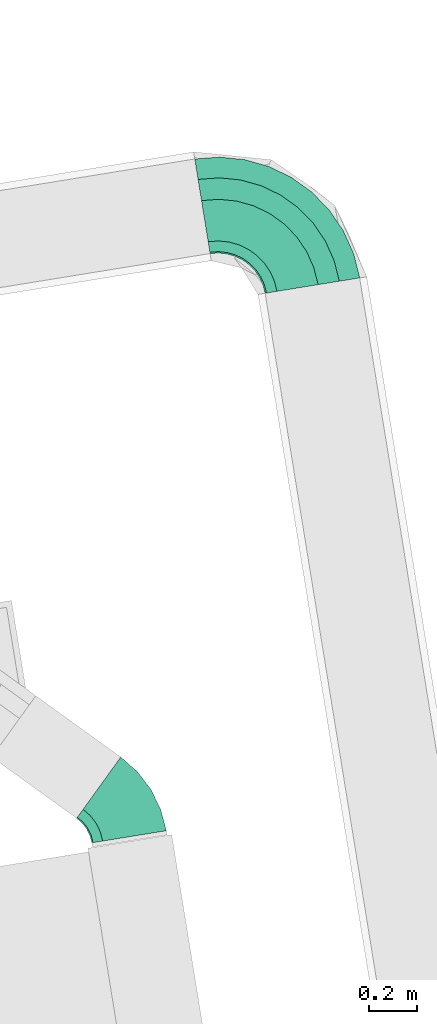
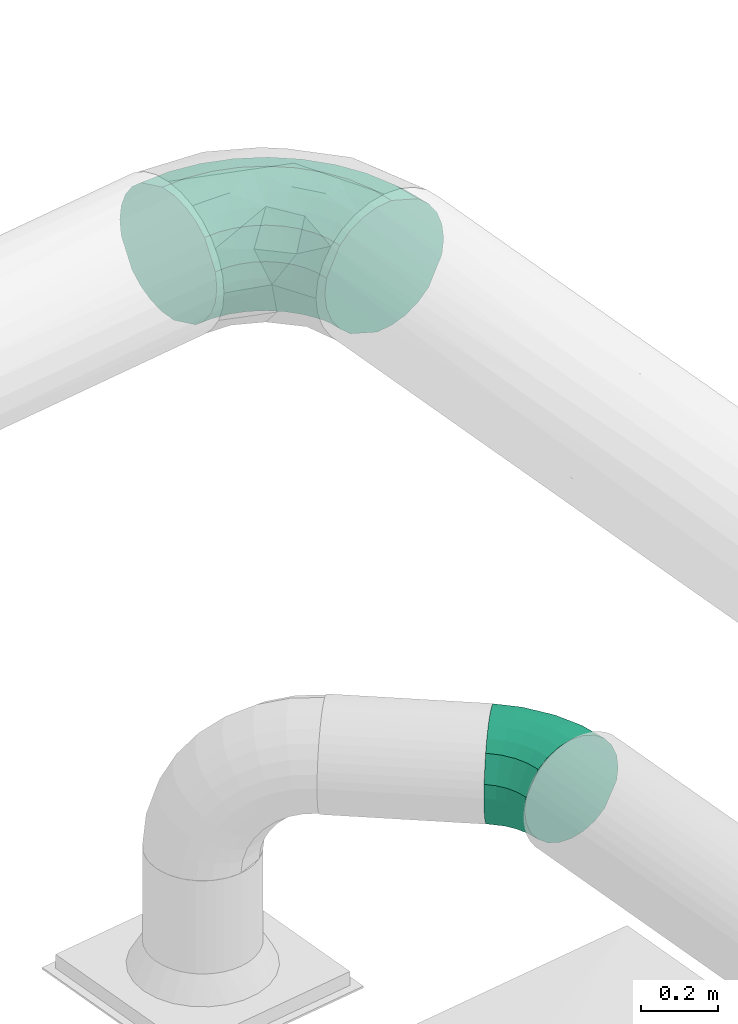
# One storey, part 37 of 39: 2 flow fittings.
"""IFC2X3 building model written with IfcOpenShell, lengths in millimetres."""

from ifc_helpers import new_model, entity, si_unit, converted_unit, derived_unit, direction, frame, origin, origin_with_axes, place, context, subcontext, project, spatial, faceted_brep, source, transform, mapped, material, type_object, element, save


model = new_model("IFC2X3")

# Units and contexts
plan_context = context("Plan", 3, precision=1e-05, world=origin_with_axes())
model_context = context("Model", 3, precision=0.01, world=origin(), true_north=direction((6.12323399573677e-17, 1.0)))
body_context = subcontext(model_context, "Body", "Model", "MODEL_VIEW")
ifc_project = project(units=[converted_unit("PLANEANGLEUNIT", "DEGREE", entity("IfcPositiveLengthMeasure", 0.0174532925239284), si_unit("PLANEANGLEUNIT", "RADIAN"), dimensions=[0, 0, 0, 0, 0, 0, 0]), si_unit("AREAUNIT", "SQUARE_METRE"), si_unit("LENGTHUNIT", "METRE", prefix="MILLI"), si_unit("MASSUNIT", "GRAM", prefix="KILO"), si_unit("POWERUNIT", "WATT"), si_unit("PRESSUREUNIT", "PASCAL", prefix="KILO"), si_unit("FORCEUNIT", "NEWTON", prefix="KILO"), si_unit("ELECTRICVOLTAGEUNIT", "VOLT"), si_unit("ELECTRICCURRENTUNIT", "AMPERE"), si_unit("THERMODYNAMICTEMPERATUREUNIT", "DEGREE_CELSIUS"), si_unit("TIMEUNIT", "SECOND"), si_unit("VOLUMEUNIT", "CUBIC_METRE"), derived_unit("LINEARVELOCITYUNIT", [(si_unit("LENGTHUNIT", "METRE"), 1), (si_unit("TIMEUNIT", "SECOND"), -1)]), derived_unit("VOLUMETRICFLOWRATEUNIT", [(si_unit("VOLUMEUNIT", "CUBIC_METRE"), 1), (si_unit("TIMEUNIT", "SECOND"), -1)]), derived_unit("THERMALTRANSMITTANCEUNIT", [(si_unit("POWERUNIT", "WATT"), 1), (si_unit("THERMODYNAMICTEMPERATUREUNIT", "KELVIN"), -1), (si_unit("AREAUNIT", "SQUARE_METRE"), -1)]), derived_unit("SOUNDPRESSUREUNIT", [(si_unit("PRESSUREUNIT", "PASCAL"), 1)])], contexts=[model_context, plan_context])

# Site, building, storey
site_placement = place(None, frame((-0.00071070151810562, 0.00438415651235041, 0.0), z_axis=(0.0, 0.0, 1.0), x_axis=(-0.160236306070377, 0.987078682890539, 0.0)))
site = spatial("IfcSite", under=ifc_project, at=site_placement, Name="Default", CompositionType="ELEMENT")
building_placement = place(site_placement, origin_with_axes())
building = spatial("IfcBuilding", under=site, at=building_placement, CompositionType="ELEMENT")
storey_placement = place(building_placement, frame((0.0, 0.0, 58999.9999999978), z_axis=(0.0, 0.0, 1.0), x_axis=(1.0, 0.0, 0.0)))
storey = spatial("IfcBuildingStorey", under=building, at=storey_placement, Name="Nivå F", CompositionType="ELEMENT", Elevation=58999.9999999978)

# Flow fittings
ifc_material = material(Name="<Unnamed>")
duct_fitting_type_1 = type_object("IfcDuctFittingType", Name="magicirc_elbow_full_radius_1:magicirc_elbow_full_radius_001", PredefinedType="NOTDEFINED", material=ifc_material)
shared_shape_1 = source(origin(), body_context, "Body", "Brep", [
    faceted_brep([(-38.2970949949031, -148.421044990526, 0.0), (-39.3440827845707, -143.157481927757, 40.7639996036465), (-130.477272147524, -152.133317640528, 40.7639996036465), (-130.477272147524, -157.5, 0.0), (-42.4136956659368, -127.725495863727, 78.7499999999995), (-130.477272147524, -136.399001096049, 78.7499999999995), (-47.2967445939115, -103.176751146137, 111.369318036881), (-130.477272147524, -111.369318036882, 111.369318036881), (-53.6604578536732, -71.1842041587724, 136.399001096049), (-130.477272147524, -78.7500000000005, 136.399001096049), (-61.0711589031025, -33.9280941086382, 152.133317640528), (-130.477272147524, -40.7639996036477, 152.133317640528), (-69.0238207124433, 6.0526366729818, 157.5), (-130.477272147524, 0.0, 157.5), (-76.9764825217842, 46.033367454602, 152.133317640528), (-130.477272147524, 40.7639996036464, 152.133317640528), (-84.3871835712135, 83.2894775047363, 136.399001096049), (-130.477272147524, 78.7499999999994, 136.399001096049), (-90.7508968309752, 115.282024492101, 111.369318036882), (-130.477272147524, 111.369318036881, 111.369318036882), (-98.7035586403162, 155.262755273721, 40.7639996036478), (-130.477272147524, 152.133317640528, 40.7639996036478), (-99.7505464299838, 160.526318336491, 0.0), (-130.477272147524, 157.5, 0.0), (-98.7035586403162, 155.262755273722, -40.763999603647), (-130.477272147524, 152.133317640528, -40.763999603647), (-95.6339457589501, 139.830769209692, -78.7499999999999), (-130.477272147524, 136.399001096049, -78.7499999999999), (-90.7508968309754, 115.282024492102, -111.369318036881), (-130.477272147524, 111.369318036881, -111.369318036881), (-84.3871835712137, 83.289477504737, -136.399001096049), (-130.477272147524, 78.7500000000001, -136.399001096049), (-76.9764825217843, 46.0333674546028, -152.133317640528), (-130.477272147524, 40.7639996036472, -152.133317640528), (-69.0238207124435, 6.05263667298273, -157.5), (-130.477272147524, 0.0, -157.5), (-61.0711589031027, -33.9280941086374, -152.133317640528), (-130.477272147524, -40.7639996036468, -152.133317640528), (-53.6604578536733, -71.1842041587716, -136.399001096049), (-130.477272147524, -78.7499999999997, -136.399001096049), (-47.2967445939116, -103.176751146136, -111.369318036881), (-130.477272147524, -111.369318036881, -111.369318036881), (-39.3440827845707, -143.157481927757, -40.7639996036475), (-130.477272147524, -152.133317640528, -40.7639996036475), (50.3406496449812, -121.533079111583, 0.0), (48.2869092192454, -116.574911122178, 40.7639996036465), (42.2656469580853, -102.03829810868, 78.7499999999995), (32.6872019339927, -78.9138862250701, 111.369318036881), (20.2043293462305, -48.7775659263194, 136.399001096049), (5.66771633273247, -13.6830776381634, 152.133317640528), (-9.93199095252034, 23.9779472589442, 157.5), (-25.5316982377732, 61.638972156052, 152.133317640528), (-40.0683112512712, 96.7334604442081, 136.399001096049), (-52.5511838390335, 126.869780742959, 111.369318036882), (-68.1508911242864, 164.530805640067, 40.7639996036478), (-70.2046315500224, 169.488973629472, 0.0), (-68.1508911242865, 164.530805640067, -40.763999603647), (-62.1296288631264, 149.994192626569, -78.7499999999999), (-52.5511838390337, 126.86978074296, -111.369318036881), (-40.0683112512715, 96.7334604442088, -136.399001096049), (-25.5316982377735, 61.6389721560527, -152.133317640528), (-9.9319909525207, 23.9779472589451, -157.5), (5.66771633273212, -13.6830776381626, -152.133317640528), (20.2043293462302, -48.7775659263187, -136.399001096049), (32.6872019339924, -78.9138862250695, -111.369318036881), (48.2869092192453, -116.574911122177, -40.7639996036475), (132.029662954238, -77.8693918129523, 0.0), (129.048093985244, -73.4071585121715, 40.7639996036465), (120.306576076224, -60.324552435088, 78.7499999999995), (106.400829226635, -39.5131315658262, 111.369318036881), (88.2785071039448, -12.3911598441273, 136.399001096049), (67.1746160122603, 19.1930451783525, 152.133317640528), (44.5273512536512, 53.0870721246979, 157.5), (21.880086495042, 86.9810990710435, 152.133317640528), (0.776195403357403, 118.565304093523, 136.399001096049), (-17.3461267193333, 145.687275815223, 111.369318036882), (-39.9933914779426, 179.581302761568, 40.7639996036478), (-42.9749604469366, 184.043536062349, 0.0), (-39.9933914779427, 179.581302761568, -40.763999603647), (-31.2518735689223, 166.498696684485, -78.7499999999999), (-17.3461267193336, 145.687275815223, -111.369318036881), (0.776195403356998, 118.565304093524, -136.399001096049), (21.8800864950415, 86.9810990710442, -152.133317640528), (44.5273512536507, 53.0870721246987, -157.5), (67.1746160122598, 19.1930451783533, -152.133317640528), (88.2785071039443, -12.3911598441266, -136.399001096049), (106.400829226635, -39.5131315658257, -111.369318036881), (129.048093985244, -73.4071585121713, -40.7639996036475), (203.63068196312, -19.1079541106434, 0.0), (199.835864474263, -15.3131366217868, 40.7639996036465), (188.710022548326, -4.18729469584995, 78.7499999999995), (171.011363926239, 13.5113639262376, 111.369318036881), (147.94602294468, 36.5767049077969, 136.399001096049), (121.085864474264, 63.4368633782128, 152.133317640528), (92.261363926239, 92.2613639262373, 157.5), (63.4368633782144, 121.085864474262, 152.133317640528), (36.5767049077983, 147.946022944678, 136.399001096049), (13.5113639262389, 171.011363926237, 111.369318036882), (-15.3131366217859, 199.835864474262, 40.7639996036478), (-19.1079541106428, 203.630681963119, 0.0), (-15.3131366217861, 199.835864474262, -40.763999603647), (-4.18729469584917, 188.710022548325, -78.7499999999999), (13.5113639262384, 171.011363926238, -111.369318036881), (36.5767049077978, 147.946022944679, -136.399001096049), (63.4368633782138, 121.085864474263, -152.133317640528), (92.2613639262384, 92.261363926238, -157.5), (121.085864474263, 63.4368633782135, -152.133317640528), (147.946022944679, 36.5767049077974, -136.399001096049), (171.011363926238, 13.5113639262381, -111.369318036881), (199.835864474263, -15.3131366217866, -40.7639996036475)], [[[0, 1, 2, 3]], [[1, 4, 5, 2]], [[4, 6, 7, 5]], [[6, 8, 9, 7]], [[8, 10, 11, 9]], [[10, 12, 13, 11]], [[12, 14, 15, 13]], [[14, 16, 17, 15]], [[16, 18, 19, 17]], [[18, 20, 21, 19]], [[20, 22, 23, 21]], [[22, 24, 25, 23]], [[24, 26, 27, 25]], [[26, 28, 29, 27]], [[28, 30, 31, 29]], [[30, 32, 33, 31]], [[32, 34, 35, 33]], [[34, 36, 37, 35]], [[36, 38, 39, 37]], [[38, 40, 41, 39]], [[40, 42, 43, 41]], [[42, 0, 3, 43]], [[44, 45, 1, 0]], [[45, 46, 4, 1]], [[46, 47, 6, 4]], [[47, 48, 8, 6]], [[48, 49, 10, 8]], [[49, 50, 12, 10]], [[50, 51, 14, 12]], [[51, 52, 16, 14]], [[52, 53, 18, 16]], [[53, 54, 20, 18]], [[54, 55, 22, 20]], [[55, 56, 24, 22]], [[56, 57, 26, 24]], [[57, 58, 28, 26]], [[58, 59, 30, 28]], [[59, 60, 32, 30]], [[60, 61, 34, 32]], [[61, 62, 36, 34]], [[62, 63, 38, 36]], [[63, 64, 40, 38]], [[64, 65, 42, 40]], [[65, 44, 0, 42]], [[66, 67, 45, 44]], [[67, 68, 46, 45]], [[68, 69, 47, 46]], [[69, 70, 48, 47]], [[70, 71, 49, 48]], [[71, 72, 50, 49]], [[72, 73, 51, 50]], [[73, 74, 52, 51]], [[74, 75, 53, 52]], [[75, 76, 54, 53]], [[76, 77, 55, 54]], [[77, 78, 56, 55]], [[78, 79, 57, 56]], [[79, 80, 58, 57]], [[80, 81, 59, 58]], [[81, 82, 60, 59]], [[82, 83, 61, 60]], [[83, 84, 62, 61]], [[84, 85, 63, 62]], [[85, 86, 64, 63]], [[86, 87, 65, 64]], [[87, 66, 44, 65]], [[88, 89, 67, 66]], [[89, 90, 68, 67]], [[90, 91, 69, 68]], [[91, 92, 70, 69]], [[92, 93, 71, 70]], [[93, 94, 72, 71]], [[94, 95, 73, 72]], [[95, 96, 74, 73]], [[96, 97, 75, 74]], [[97, 98, 76, 75]], [[98, 99, 77, 76]], [[99, 100, 78, 77]], [[100, 101, 79, 78]], [[101, 102, 80, 79]], [[102, 103, 81, 80]], [[103, 104, 82, 81]], [[104, 105, 83, 82]], [[105, 106, 84, 83]], [[106, 107, 85, 84]], [[107, 108, 86, 85]], [[108, 109, 87, 86]], [[109, 88, 66, 87]], [[3, 2, 5, 7, 9, 11, 13, 15, 17, 19, 21, 23, 25, 27, 29, 31, 33, 35, 37, 39, 41, 43]], [[109, 108, 107, 106, 105, 104, 103, 102, 101, 100, 99, 98, 97, 96, 95, 94, 93, 92, 91, 90, 89, 88]]]),
])
flow_fitting_1_placement = place(storey_placement, frame((780910.265437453, -502178.834705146, 3130.03415297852), z_axis=(0.0, 0.0, 1.0), x_axis=(1.0, 0.0, 0.0)))
element("IfcFlowFitting", 1, at=flow_fitting_1_placement, inside=storey, type_object=duct_fitting_type_1, material=ifc_material, Name="magicirc_elbow_full_radius_1:magicirc_elbow_full_radius_001", ObjectType="magicirc_elbow_full_radius_1:magicirc_elbow_full_radius_001", context=body_context, shape_type="MappedRepresentation", body=[
    mapped(shared_shape_1, transform((0.0, 0.0, 0.0), scale=1.0)),
])
duct_fitting_type_2 = type_object("IfcDuctFittingType", Name="magicirc_elbow_full_radius_1:magicirc_elbow_full_radius_001", PredefinedType="NOTDEFINED", material=ifc_material)
shared_shape_2 = source(origin(), body_context, "Body", "Brep", [
    faceted_brep([(-295.81109339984, -190.884651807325, 0.0), (-296.820273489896, -185.161307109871, 47.8631328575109), (-400.0, -194.188363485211, 47.8631328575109), (-400.0, -200.0, 0.0), (-299.78916388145, -168.323893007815, 92.9446344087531), (-400.0, -177.091205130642, 92.9446344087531), (-304.545223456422, -141.350938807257, 132.624531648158), (-400.0, -149.702149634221, 132.624531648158), (-310.812047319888, -105.810014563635, 164.596773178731), (-400.0, -113.612949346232, 164.596773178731), (-326.354533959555, -17.6641926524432, 198.541774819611), (-400.0, -24.1073360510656, 198.541774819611), (-334.726923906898, 29.817990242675, 198.541774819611), (-400.0, 24.1073360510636, 198.541774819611), (-342.856027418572, 75.9204271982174, 187.003248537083), (-400.0, 70.9209774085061, 187.003248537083), (-350.269410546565, 117.963812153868, 164.596773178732), (-400.0, 113.61294934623, 164.596773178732), (-356.536234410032, 153.50473639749, 132.62453164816), (-400.0, 149.702149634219, 132.62453164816), (-364.261184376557, 197.315104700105, 47.8631328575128), (-400.0, 194.18836348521, 47.8631328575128), (-365.270364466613, 203.038449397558, 0.0), (-400.0, 200.0, 0.0), (-364.261184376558, 197.315104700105, -47.8631328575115), (-400.0, 194.18836348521, -47.8631328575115), (-361.292293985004, 180.477690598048, -92.9446344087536), (-400.0, 177.091205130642, -92.9446344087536), (-356.536234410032, 153.504736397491, -132.624531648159), (-400.0, 149.70214963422, -132.624531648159), (-350.269410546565, 117.963812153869, -164.596773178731), (-400.0, 113.612949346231, -164.596773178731), (-334.726923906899, 29.8179902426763, -198.541774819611), (-400.0, 24.1073360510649, -198.541774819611), (-326.354533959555, -17.6641926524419, -198.541774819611), (-400.0, -24.1073360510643, -198.541774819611), (-318.225430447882, -63.7666296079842, -187.003248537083), (-400.0, -70.9209774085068, -187.003248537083), (-310.812047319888, -105.810014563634, -164.596773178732), (-400.0, -113.612949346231, -164.596773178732), (-304.545223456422, -141.350938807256, -132.624531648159), (-400.0, -149.70214963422, -132.624531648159), (-296.820273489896, -185.161307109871, -47.8631328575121), (-400.0, -194.18836348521, -47.8631328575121), (-194.787914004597, -163.815572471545, 0.0), (-196.775610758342, -158.354420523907, 47.8631328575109), (-202.623183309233, -142.288346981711, 92.9446344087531), (-211.990791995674, -116.551053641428, 132.624531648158), (-224.334025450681, -82.6382984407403, 164.596773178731), (-254.946748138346, 1.46946589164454, 198.541774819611), (-271.437137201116, 46.7764374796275, 198.541774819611), (-287.448345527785, 90.7668708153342, 187.003248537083), (-302.049859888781, 130.884201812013, 164.596773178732), (-314.393093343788, 164.796957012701, 132.62453164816), (-329.608274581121, 206.60032389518, 47.8631328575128), (-331.595971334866, 212.061475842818, 0.0), (-329.608274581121, 206.600323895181, -47.8631328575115), (-323.760702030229, 190.534250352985, -92.9446344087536), (-314.393093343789, 164.796957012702, -132.624531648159), (-302.049859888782, 130.884201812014, -164.596773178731), (-271.437137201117, 46.7764374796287, -198.541774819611), (-254.946748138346, 1.46946589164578, -198.541774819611), (-238.935539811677, -42.5209674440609, -187.003248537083), (-224.334025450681, -82.6382984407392, -164.596773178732), (-211.990791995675, -116.551053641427, -132.624531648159), (-196.775610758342, -158.354420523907, -47.8631328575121), (-100.0, -119.615242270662, 0.0), (-102.905818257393, -114.582217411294, 47.8631328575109), (-111.454397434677, -99.7756439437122, 92.9446344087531), (-125.148925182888, -76.0560260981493, 132.624531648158), (-143.193525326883, -44.8018618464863, 164.596773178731), (-187.946331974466, 32.7122730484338, 198.541774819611), (-212.053668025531, 74.4674039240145, 198.541774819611), (-235.460488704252, 115.009206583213, 187.003248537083), (-256.806474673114, 151.981538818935, 164.596773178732), (-274.851074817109, 183.235703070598, 132.62453164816), (-297.094181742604, 221.761894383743, 47.8631328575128), (-300.0, 226.794919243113, 0.0), (-297.094181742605, 221.761894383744, -47.8631328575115), (-288.54560256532, 206.955320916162, -92.9446344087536), (-274.851074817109, 183.235703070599, -132.624531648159), (-256.806474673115, 151.981538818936, -164.596773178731), (-212.053668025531, 74.4674039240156, -198.541774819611), (-187.946331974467, 32.712273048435, -198.541774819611), (-164.539511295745, -7.829529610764, -187.003248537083), (-143.193525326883, -44.8018618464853, -164.596773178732), (-125.148925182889, -76.0560260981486, -132.624531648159), (-102.905818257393, -114.582217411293, -47.8631328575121), (-14.327434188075, -59.6266658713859, 0.0), (-18.0630821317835, -55.1746940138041, 47.8631328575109), (-29.0529236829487, -42.0775108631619, 92.9446344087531), (-46.6582691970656, -21.0962770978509, 132.624531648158), (-69.8559599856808, 6.54965423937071, 164.596773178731), (-127.389059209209, 75.1149319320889, 198.541774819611), (-158.380853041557, 112.049513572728, 198.541774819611), (-188.47208167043, 147.910843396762, 187.003248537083), (-215.913952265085, 180.614791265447, 164.596773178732), (-239.1116430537, 208.260722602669, 132.62453164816), (-267.706830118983, 242.339139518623, 47.8631328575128), (-271.442478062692, 246.791111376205, 0.0), (-267.706830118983, 242.339139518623, -47.8631328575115), (-256.716988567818, 229.24195636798, -92.9446344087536), (-239.111643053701, 208.260722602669, -132.624531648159), (-215.913952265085, 180.614791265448, -164.596773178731), (-158.380853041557, 112.049513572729, -198.541774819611), (-127.389059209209, 75.1149319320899, -198.541774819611), (-97.297830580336, 39.2536021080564, -187.003248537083), (-69.8559599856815, 6.54965423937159, -164.596773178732), (-46.6582691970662, -21.0962770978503, -132.624531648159), (-18.0630821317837, -55.1746940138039, -47.8631328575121), (59.626665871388, 14.3274341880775, 0.0), (55.1746940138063, 18.0630821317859, 47.8631328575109), (42.077510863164, 29.0529236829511, 92.9446344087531), (21.0962770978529, 46.6582691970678, 132.624531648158), (-6.54965423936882, 69.8559599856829, 164.596773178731), (-75.1149319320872, 127.38905920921, 198.541774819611), (-112.049513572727, 158.380853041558, 198.541774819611), (-147.910843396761, 188.472081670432, 187.003248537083), (-180.614791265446, 215.913952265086, 164.596773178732), (-208.260722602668, 239.111643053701, 132.62453164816), (-242.339139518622, 267.706830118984, 47.8631328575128), (-246.791111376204, 271.442478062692, 0.0), (-242.339139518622, 267.706830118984, -47.8631328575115), (-229.24195636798, 256.716988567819, -92.9446344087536), (-208.260722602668, 239.111643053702, -132.624531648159), (-180.614791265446, 215.913952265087, -164.596773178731), (-112.049513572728, 158.380853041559, -198.541774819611), (-75.1149319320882, 127.389059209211, -198.541774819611), (-39.2536021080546, 97.297830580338, -187.003248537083), (-6.54965423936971, 69.8559599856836, -164.596773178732), (21.0962770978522, 46.6582691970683, -132.624531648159), (55.174694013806, 18.0630821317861, -47.8631328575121), (119.615242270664, 100.0, 0.0), (114.582217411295, 102.905818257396, 47.8631328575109), (99.775643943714, 111.45439743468, 92.9446344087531), (76.056026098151, 125.148925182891, 132.624531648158), (44.8018618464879, 143.193525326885, 164.596773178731), (-32.7122730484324, 187.946331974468, 198.541774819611), (-74.4674039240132, 212.053668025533, 198.541774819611), (-115.009206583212, 235.460488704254, 187.003248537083), (-151.981538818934, 256.806474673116, 164.596773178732), (-183.235703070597, 274.85107481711, 132.62453164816), (-221.761894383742, 297.094181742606, 47.8631328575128), (-226.794919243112, 300.0, 0.0), (-221.761894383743, 297.094181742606, -47.8631328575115), (-206.955320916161, 288.545602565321, -92.9446344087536), (-183.235703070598, 274.851074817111, -132.624531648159), (-151.981538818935, 256.806474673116, -164.596773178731), (-74.4674039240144, 212.053668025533, -198.541774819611), (-32.7122730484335, 187.946331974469, -198.541774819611), (7.82952961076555, 164.539511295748, -187.003248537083), (44.8018618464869, 143.193525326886, -164.596773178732), (76.0560260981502, 125.148925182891, -132.624531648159), (114.582217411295, 102.905818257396, -47.8631328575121), (163.815572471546, 194.7879140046, 0.0), (158.354420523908, 196.775610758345, 47.8631328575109), (142.288346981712, 202.623183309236, 92.9446344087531), (116.551053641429, 211.990791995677, 132.624531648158), (82.6382984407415, 224.334025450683, 164.596773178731), (-1.46946589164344, 254.946748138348, 198.541774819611), (-46.7764374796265, 271.437137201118, 198.541774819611), (-90.7668708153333, 287.448345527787, 187.003248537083), (-130.884201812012, 302.049859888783, 164.596773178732), (-164.7969570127, 314.39309334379, 132.62453164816), (-206.60032389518, 329.608274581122, 47.8631328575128), (-212.061475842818, 331.595971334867, 0.0), (-206.60032389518, 329.608274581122, -47.8631328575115), (-190.534250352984, 323.760702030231, -92.9446344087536), (-164.796957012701, 314.39309334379, -132.624531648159), (-130.884201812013, 302.049859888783, -164.596773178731), (-46.7764374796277, 271.437137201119, -198.541774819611), (-1.46946589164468, 254.946748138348, -198.541774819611), (42.5209674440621, 238.93553981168, -187.003248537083), (82.6382984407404, 224.334025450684, -164.596773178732), (116.551053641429, 211.990791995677, -132.624531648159), (158.354420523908, 196.775610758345, -47.8631328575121), (190.884651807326, 295.811093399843, 0.0), (185.161307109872, 296.820273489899, 47.8631328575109), (168.323893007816, 299.789163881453, 92.9446344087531), (141.350938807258, 304.545223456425, 132.624531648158), (105.810014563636, 310.812047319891, 164.596773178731), (17.664192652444, 326.354533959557, 198.541774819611), (-29.8179902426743, 334.7269239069, 198.541774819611), (-75.9204271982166, 342.856027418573, 187.003248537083), (-117.963812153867, 350.269410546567, 164.596773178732), (-153.504736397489, 356.536234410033, 132.62453164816), (-197.315104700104, 364.261184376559, 47.8631328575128), (-203.038449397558, 365.270364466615, 0.0), (-197.315104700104, 364.261184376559, -47.8631328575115), (-180.477690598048, 361.292293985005, -92.9446344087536), (-153.50473639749, 356.536234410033, -132.624531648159), (-117.963812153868, 350.269410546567, -164.596773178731), (-29.8179902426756, 334.726923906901, -198.541774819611), (17.6641926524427, 326.354533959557, -198.541774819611), (63.766629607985, 318.225430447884, -187.003248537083), (105.810014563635, 310.812047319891, -164.596773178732), (141.350938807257, 304.545223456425, -132.624531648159), (185.161307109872, 296.820273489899, -47.8631328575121), (200.0, 400.0, 0.0), (194.188363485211, 400.0, 47.8631328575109), (177.091205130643, 400.0, 92.9446344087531), (149.702149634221, 400.0, 132.624531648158), (113.612949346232, 400.0, 164.596773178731), (24.1073360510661, 400.0, 198.541774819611), (-24.107336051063, 400.0, 198.541774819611), (-70.9209774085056, 400.0, 187.003248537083), (-113.61294934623, 400.0, 164.596773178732), (-149.702149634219, 400.0, 132.62453164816), (-194.18836348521, 400.0, 47.8631328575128), (-200.0, 400.0, 0.0), (-194.18836348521, 400.0, -47.8631328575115), (-177.091205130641, 400.0, -92.9446344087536), (-149.70214963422, 400.0, -132.624531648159), (-113.612949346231, 400.0, -164.596773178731), (-24.1073360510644, 400.0, -198.541774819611), (24.1073360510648, 400.0, -198.541774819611), (70.9209774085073, 400.0, -187.003248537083), (113.612949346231, 400.0, -164.596773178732), (149.70214963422, 400.0, -132.624531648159), (194.188363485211, 400.0, -47.8631328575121)], [[[0, 1, 2, 3]], [[1, 4, 5, 2]], [[4, 6, 7, 5]], [[6, 8, 9, 7]], [[8, 10, 11, 9]], [[10, 12, 13, 11]], [[12, 14, 15, 13]], [[14, 16, 17, 15]], [[16, 18, 19, 17]], [[18, 20, 21, 19]], [[20, 22, 23, 21]], [[22, 24, 25, 23]], [[24, 26, 27, 25]], [[26, 28, 29, 27]], [[28, 30, 31, 29]], [[30, 32, 33, 31]], [[32, 34, 35, 33]], [[34, 36, 37, 35]], [[36, 38, 39, 37]], [[38, 40, 41, 39]], [[40, 42, 43, 41]], [[42, 0, 3, 43]], [[44, 45, 1, 0]], [[45, 46, 4, 1]], [[46, 47, 6, 4]], [[47, 48, 8, 6]], [[48, 49, 10, 8]], [[49, 50, 12, 10]], [[50, 51, 14, 12]], [[51, 52, 16, 14]], [[52, 53, 18, 16]], [[53, 54, 20, 18]], [[54, 55, 22, 20]], [[55, 56, 24, 22]], [[56, 57, 26, 24]], [[57, 58, 28, 26]], [[58, 59, 30, 28]], [[59, 60, 32, 30]], [[60, 61, 34, 32]], [[61, 62, 36, 34]], [[62, 63, 38, 36]], [[63, 64, 40, 38]], [[64, 65, 42, 40]], [[65, 44, 0, 42]], [[66, 67, 45, 44]], [[67, 68, 46, 45]], [[68, 69, 47, 46]], [[69, 70, 48, 47]], [[70, 71, 49, 48]], [[71, 72, 50, 49]], [[72, 73, 51, 50]], [[73, 74, 52, 51]], [[74, 75, 53, 52]], [[75, 76, 54, 53]], [[76, 77, 55, 54]], [[77, 78, 56, 55]], [[78, 79, 57, 56]], [[79, 80, 58, 57]], [[80, 81, 59, 58]], [[81, 82, 60, 59]], [[82, 83, 61, 60]], [[83, 84, 62, 61]], [[84, 85, 63, 62]], [[85, 86, 64, 63]], [[86, 87, 65, 64]], [[87, 66, 44, 65]], [[88, 89, 67, 66]], [[89, 90, 68, 67]], [[90, 91, 69, 68]], [[91, 92, 70, 69]], [[92, 93, 71, 70]], [[93, 94, 72, 71]], [[94, 95, 73, 72]], [[95, 96, 74, 73]], [[96, 97, 75, 74]], [[97, 98, 76, 75]], [[98, 99, 77, 76]], [[99, 100, 78, 77]], [[100, 101, 79, 78]], [[101, 102, 80, 79]], [[102, 103, 81, 80]], [[103, 104, 82, 81]], [[104, 105, 83, 82]], [[105, 106, 84, 83]], [[106, 107, 85, 84]], [[107, 108, 86, 85]], [[108, 109, 87, 86]], [[109, 88, 66, 87]], [[110, 111, 89, 88]], [[111, 112, 90, 89]], [[112, 113, 91, 90]], [[113, 114, 92, 91]], [[114, 115, 93, 92]], [[115, 116, 94, 93]], [[116, 117, 95, 94]], [[117, 118, 96, 95]], [[118, 119, 97, 96]], [[119, 120, 98, 97]], [[120, 121, 99, 98]], [[121, 122, 100, 99]], [[122, 123, 101, 100]], [[123, 124, 102, 101]], [[124, 125, 103, 102]], [[125, 126, 104, 103]], [[126, 127, 105, 104]], [[127, 128, 106, 105]], [[128, 129, 107, 106]], [[129, 130, 108, 107]], [[130, 131, 109, 108]], [[131, 110, 88, 109]], [[132, 133, 111, 110]], [[133, 134, 112, 111]], [[134, 135, 113, 112]], [[135, 136, 114, 113]], [[136, 137, 115, 114]], [[137, 138, 116, 115]], [[138, 139, 117, 116]], [[139, 140, 118, 117]], [[140, 141, 119, 118]], [[141, 142, 120, 119]], [[142, 143, 121, 120]], [[143, 144, 122, 121]], [[144, 145, 123, 122]], [[145, 146, 124, 123]], [[146, 147, 125, 124]], [[147, 148, 126, 125]], [[148, 149, 127, 126]], [[149, 150, 128, 127]], [[150, 151, 129, 128]], [[151, 152, 130, 129]], [[152, 153, 131, 130]], [[153, 132, 110, 131]], [[154, 155, 133, 132]], [[155, 156, 134, 133]], [[156, 157, 135, 134]], [[157, 158, 136, 135]], [[158, 159, 137, 136]], [[159, 160, 138, 137]], [[160, 161, 139, 138]], [[161, 162, 140, 139]], [[162, 163, 141, 140]], [[163, 164, 142, 141]], [[164, 165, 143, 142]], [[165, 166, 144, 143]], [[166, 167, 145, 144]], [[167, 168, 146, 145]], [[168, 169, 147, 146]], [[169, 170, 148, 147]], [[170, 171, 149, 148]], [[171, 172, 150, 149]], [[172, 173, 151, 150]], [[173, 174, 152, 151]], [[174, 175, 153, 152]], [[175, 154, 132, 153]], [[176, 177, 155, 154]], [[177, 178, 156, 155]], [[178, 179, 157, 156]], [[179, 180, 158, 157]], [[180, 181, 159, 158]], [[181, 182, 160, 159]], [[182, 183, 161, 160]], [[183, 184, 162, 161]], [[184, 185, 163, 162]], [[185, 186, 164, 163]], [[186, 187, 165, 164]], [[187, 188, 166, 165]], [[188, 189, 167, 166]], [[189, 190, 168, 167]], [[190, 191, 169, 168]], [[191, 192, 170, 169]], [[192, 193, 171, 170]], [[193, 194, 172, 171]], [[194, 195, 173, 172]], [[195, 196, 174, 173]], [[196, 197, 175, 174]], [[197, 176, 154, 175]], [[198, 199, 177, 176]], [[199, 200, 178, 177]], [[200, 201, 179, 178]], [[201, 202, 180, 179]], [[202, 203, 181, 180]], [[203, 204, 182, 181]], [[204, 205, 183, 182]], [[205, 206, 184, 183]], [[206, 207, 185, 184]], [[207, 208, 186, 185]], [[208, 209, 187, 186]], [[209, 210, 188, 187]], [[210, 211, 189, 188]], [[211, 212, 190, 189]], [[212, 213, 191, 190]], [[213, 214, 192, 191]], [[214, 215, 193, 192]], [[215, 216, 194, 193]], [[216, 217, 195, 194]], [[217, 218, 196, 195]], [[218, 219, 197, 196]], [[219, 198, 176, 197]], [[3, 2, 5, 7, 9, 11, 13, 15, 17, 19, 21, 23, 25, 27, 29, 31, 33, 35, 37, 39, 41, 43]], [[219, 218, 217, 216, 215, 214, 213, 212, 211, 210, 209, 208, 207, 206, 205, 204, 203, 202, 201, 200, 199, 198]]]),
])
flow_fitting_2_placement = place(storey_placement, frame((783327.222116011, -503302.362901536, 3130.0), z_axis=(0.0, 0.0, 1.0), x_axis=(1.0, 0.0, 0.0)))
element("IfcFlowFitting", 2, at=flow_fitting_2_placement, inside=storey, type_object=duct_fitting_type_2, material=ifc_material, Name="magicirc_elbow_full_radius_1:magicirc_elbow_full_radius_001", ObjectType="magicirc_elbow_full_radius_1:magicirc_elbow_full_radius_001", context=body_context, shape_type="MappedRepresentation", body=[
    mapped(shared_shape_2, transform((0.0, 0.0, 0.0), scale=1.0)),
])

save(model, "model.ifc")
